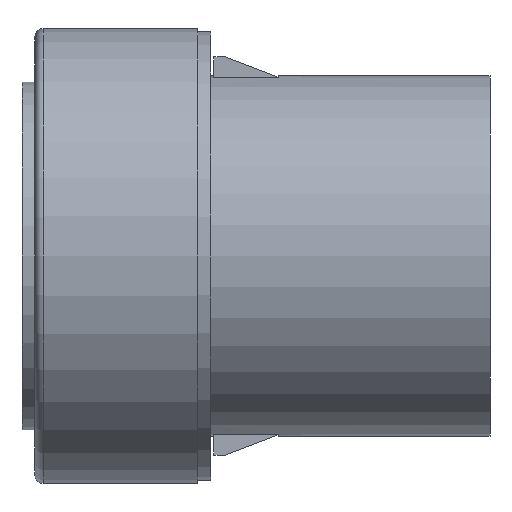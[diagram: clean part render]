
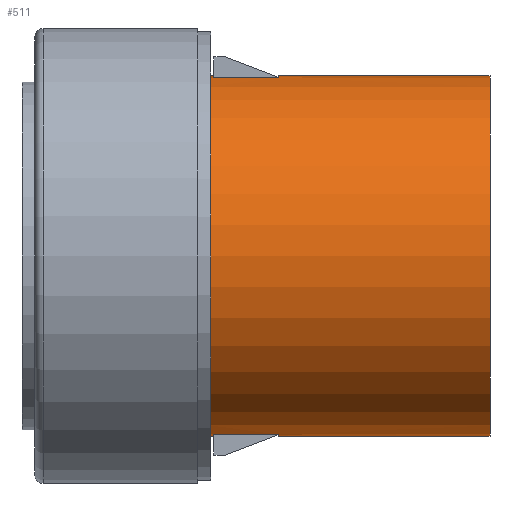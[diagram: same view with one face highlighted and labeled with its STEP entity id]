
A CAD part, left-side view. The second image highlights one B-rep face of the part: STEP entity #511.
In plain terms, the highlighted cylindrical face has radius 11.1 mm (diameter 22.2 mm), a partial arc.
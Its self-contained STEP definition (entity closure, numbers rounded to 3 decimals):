
#6 = LINE ( 'NONE', #127, #508 ) ;
#10 = VERTEX_POINT ( 'NONE', #714 ) ;
#11 = EDGE_CURVE ( 'NONE', #372, #912, #669, .T. ) ;
#66 = CIRCLE ( 'NONE', #807, 11.1 ) ;
#70 = ORIENTED_EDGE ( 'NONE', *, *, #214, .F. ) ;
#109 = ORIENTED_EDGE ( 'NONE', *, *, #306, .F. ) ;
#115 = CYLINDRICAL_SURFACE ( 'NONE', #879, 11.1 ) ;
#116 = DIRECTION ( 'NONE',  ( 0., -1., 0. ) ) ;
#118 = CARTESIAN_POINT ( 'NONE',  ( -1.55, -11., -10.991 ) ) ;
#121 = ORIENTED_EDGE ( 'NONE', *, *, #522, .F. ) ;
#127 = CARTESIAN_POINT ( 'NONE',  ( -1.55, -11., -10.991 ) ) ;
#142 = VECTOR ( 'NONE', #783, 1000. ) ;
#148 = VERTEX_POINT ( 'NONE', #504 ) ;
#157 = CARTESIAN_POINT ( 'NONE',  ( 0., -28., 11.1 ) ) ;
#159 = ORIENTED_EDGE ( 'NONE', *, *, #338, .F. ) ;
#164 = DIRECTION ( 'NONE',  ( 0., 1., 0. ) ) ;
#192 = VECTOR ( 'NONE', #289, 1000. ) ;
#198 = DIRECTION ( 'NONE',  ( 0., 1., 0. ) ) ;
#203 = DIRECTION ( 'NONE',  ( 0., 0., -1. ) ) ;
#214 = EDGE_CURVE ( 'NONE', #642, #223, #676, .T. ) ;
#223 = VERTEX_POINT ( 'NONE', #265 ) ;
#227 = AXIS2_PLACEMENT_3D ( 'NONE', #371, #198, #355 ) ;
#245 = ORIENTED_EDGE ( 'NONE', *, *, #881, .T. ) ;
#254 = DIRECTION ( 'NONE',  ( 0., 0., -1. ) ) ;
#265 = CARTESIAN_POINT ( 'NONE',  ( 0., -15., 11.1 ) ) ;
#289 = DIRECTION ( 'NONE',  ( 0., 1., 0. ) ) ;
#296 = DIRECTION ( 'NONE',  ( 0., -1., 0. ) ) ;
#306 = EDGE_CURVE ( 'NONE', #10, #518, #66, .T. ) ;
#308 = ORIENTED_EDGE ( 'NONE', *, *, #11, .T. ) ;
#313 = CIRCLE ( 'NONE', #825, 11.1 ) ;
#320 = EDGE_CURVE ( 'NONE', #518, #844, #347, .T. ) ;
#322 = CARTESIAN_POINT ( 'NONE',  ( 0., -28., 11.1 ) ) ;
#338 = EDGE_CURVE ( 'NONE', #844, #672, #313, .T. ) ;
#347 = LINE ( 'NONE', #780, #142 ) ;
#355 = DIRECTION ( 'NONE',  ( 0., 0., -1. ) ) ;
#360 = VECTOR ( 'NONE', #164, 1000. ) ;
#365 = EDGE_CURVE ( 'NONE', #559, #572, #640, .T. ) ;
#371 = CARTESIAN_POINT ( 'NONE',  ( 0., -15., 0. ) ) ;
#372 = VERTEX_POINT ( 'NONE', #665 ) ;
#375 = EDGE_CURVE ( 'NONE', #596, #148, #622, .T. ) ;
#421 = CARTESIAN_POINT ( 'NONE',  ( 0., -15., -11.1 ) ) ;
#453 = CARTESIAN_POINT ( 'NONE',  ( -1.55, -11., 10.991 ) ) ;
#454 = DIRECTION ( 'NONE',  ( 0., -1., 0. ) ) ;
#479 = LINE ( 'NONE', #653, #649 ) ;
#486 = ORIENTED_EDGE ( 'NONE', *, *, #903, .T. ) ;
#496 = CARTESIAN_POINT ( 'NONE',  ( -1.55, -15., -10.991 ) ) ;
#504 = CARTESIAN_POINT ( 'NONE',  ( 0., -10.8, -11.1 ) ) ;
#508 = VECTOR ( 'NONE', #116, 1000. ) ;
#511 = ADVANCED_FACE ( 'NONE', ( #677 ), #115, .T. ) ;
#518 = VERTEX_POINT ( 'NONE', #656 ) ;
#522 = EDGE_CURVE ( 'NONE', #372, #148, #479, .T. ) ;
#557 = CARTESIAN_POINT ( 'NONE',  ( 0., -10.8, 11.1 ) ) ;
#559 = VERTEX_POINT ( 'NONE', #619 ) ;
#572 = VERTEX_POINT ( 'NONE', #591 ) ;
#580 = CARTESIAN_POINT ( 'NONE',  ( -1.55, -15., 10.991 ) ) ;
#591 = CARTESIAN_POINT ( 'NONE',  ( 0., -11., 11.1 ) ) ;
#593 = VECTOR ( 'NONE', #454, 1000. ) ;
#596 = VERTEX_POINT ( 'NONE', #557 ) ;
#597 = ORIENTED_EDGE ( 'NONE', *, *, #834, .F. ) ;
#619 = CARTESIAN_POINT ( 'NONE',  ( -1.55, -11., 10.991 ) ) ;
#622 = CIRCLE ( 'NONE', #831, 11.1 ) ;
#635 = DIRECTION ( 'NONE',  ( 0., 1., 0. ) ) ;
#637 = DIRECTION ( 'NONE',  ( 0., 0., -1. ) ) ;
#640 = CIRCLE ( 'NONE', #827, 11.1 ) ;
#642 = VERTEX_POINT ( 'NONE', #580 ) ;
#649 = VECTOR ( 'NONE', #635, 1000. ) ;
#653 = CARTESIAN_POINT ( 'NONE',  ( 0., -28., -11.1 ) ) ;
#656 = CARTESIAN_POINT ( 'NONE',  ( 0., -28., -11.1 ) ) ;
#661 = DIRECTION ( 'NONE',  ( 0., 1., 0. ) ) ;
#662 = CARTESIAN_POINT ( 'NONE',  ( 0., -11., 0. ) ) ;
#665 = CARTESIAN_POINT ( 'NONE',  ( 0., -11., -11.1 ) ) ;
#669 = CIRCLE ( 'NONE', #867, 11.1 ) ;
#672 = VERTEX_POINT ( 'NONE', #496 ) ;
#676 = CIRCLE ( 'NONE', #227, 11.1 ) ;
#677 = FACE_OUTER_BOUND ( 'NONE', #724, .T. ) ;
#679 = DIRECTION ( 'NONE',  ( 0., 1., 0. ) ) ;
#685 = ORIENTED_EDGE ( 'NONE', *, *, #909, .T. ) ;
#692 = CARTESIAN_POINT ( 'NONE',  ( 0., -11., 0. ) ) ;
#695 = CARTESIAN_POINT ( 'NONE',  ( 0., -28., 0. ) ) ;
#698 = DIRECTION ( 'NONE',  ( 0., 1., 0. ) ) ;
#703 = DIRECTION ( 'NONE',  ( 0., 0., -1. ) ) ;
#706 = DIRECTION ( 'NONE',  ( 0., 1., 0. ) ) ;
#710 = CARTESIAN_POINT ( 'NONE',  ( 0., -15., 0. ) ) ;
#714 = CARTESIAN_POINT ( 'NONE',  ( 0., -28., 11.1 ) ) ;
#717 = DIRECTION ( 'NONE',  ( 0., 0., 1. ) ) ;
#724 = EDGE_LOOP ( 'NONE', ( #842, #109, #486, #70, #597, #800, #245, #868, #121, #308, #685, #159 ) ) ;
#727 = LINE ( 'NONE', #157, #360 ) ;
#761 = LINE ( 'NONE', #322, #192 ) ;
#780 = CARTESIAN_POINT ( 'NONE',  ( 0., -28., -11.1 ) ) ;
#783 = DIRECTION ( 'NONE',  ( 0., 1., 0. ) ) ;
#800 = ORIENTED_EDGE ( 'NONE', *, *, #365, .T. ) ;
#807 = AXIS2_PLACEMENT_3D ( 'NONE', #824, #848, #839 ) ;
#824 = CARTESIAN_POINT ( 'NONE',  ( 0., -28., 0. ) ) ;
#825 = AXIS2_PLACEMENT_3D ( 'NONE', #710, #679, #703 ) ;
#827 = AXIS2_PLACEMENT_3D ( 'NONE', #662, #706, #637 ) ;
#831 = AXIS2_PLACEMENT_3D ( 'NONE', #915, #296, #254 ) ;
#834 = EDGE_CURVE ( 'NONE', #559, #642, #857, .T. ) ;
#839 = DIRECTION ( 'NONE',  ( 0., 0., -1. ) ) ;
#842 = ORIENTED_EDGE ( 'NONE', *, *, #320, .F. ) ;
#844 = VERTEX_POINT ( 'NONE', #421 ) ;
#848 = DIRECTION ( 'NONE',  ( 0., -1., 0. ) ) ;
#857 = LINE ( 'NONE', #453, #593 ) ;
#867 = AXIS2_PLACEMENT_3D ( 'NONE', #692, #661, #203 ) ;
#868 = ORIENTED_EDGE ( 'NONE', *, *, #375, .T. ) ;
#879 = AXIS2_PLACEMENT_3D ( 'NONE', #695, #698, #717 ) ;
#881 = EDGE_CURVE ( 'NONE', #572, #596, #761, .T. ) ;
#903 = EDGE_CURVE ( 'NONE', #10, #223, #727, .T. ) ;
#909 = EDGE_CURVE ( 'NONE', #912, #672, #6, .T. ) ;
#912 = VERTEX_POINT ( 'NONE', #118 ) ;
#915 = CARTESIAN_POINT ( 'NONE',  ( 0., -10.8, 0. ) ) ;
